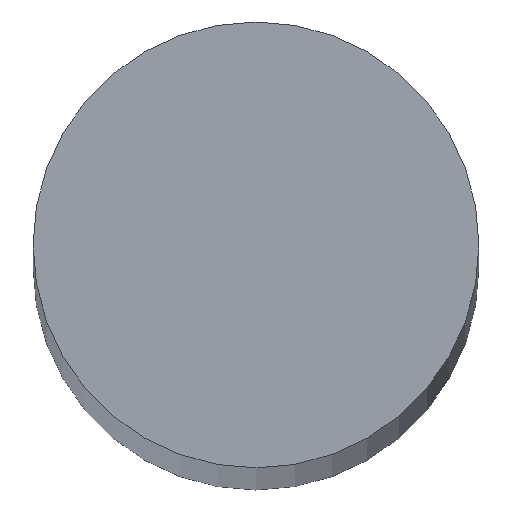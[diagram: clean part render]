
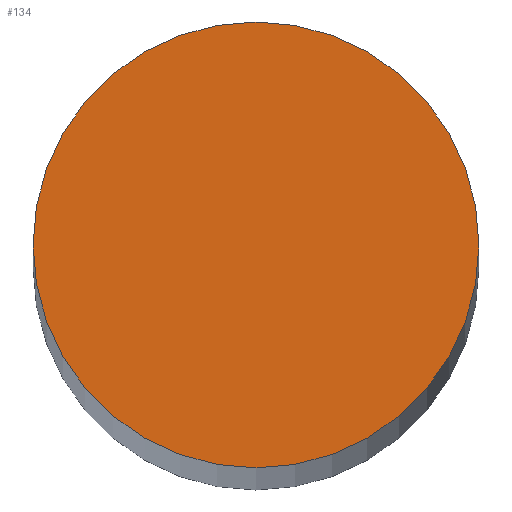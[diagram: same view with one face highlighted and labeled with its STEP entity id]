
A CAD part, top view. The second image highlights one B-rep face of the part: STEP entity #134.
In plain terms, the highlighted planar face has unit normal (0, 0, 1).
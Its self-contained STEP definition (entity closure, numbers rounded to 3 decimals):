
#3 = FACE_OUTER_BOUND ( 'NONE', #87, .T. ) ;
#5 = CIRCLE ( 'NONE', #124, 6. ) ;
#6 = CIRCLE ( 'NONE', #129, 6. ) ;
#18 = VERTEX_POINT ( 'NONE', #19 ) ;
#19 = CARTESIAN_POINT ( 'NONE',  ( 6., 0., 170.5 ) ) ;
#21 = CARTESIAN_POINT ( 'NONE',  ( -6., 0., 170.5 ) ) ;
#24 = VERTEX_POINT ( 'NONE', #21 ) ;
#39 = CARTESIAN_POINT ( 'NONE',  ( 0., 0., 170.5 ) ) ;
#40 = DIRECTION ( 'NONE',  ( 0., 0., 1. ) ) ;
#41 = DIRECTION ( 'NONE',  ( 1., 0., 0. ) ) ;
#42 = CARTESIAN_POINT ( 'NONE',  ( 0., 0., 170.5 ) ) ;
#44 = DIRECTION ( 'NONE',  ( 0., 0., 1. ) ) ;
#45 = DIRECTION ( 'NONE',  ( 1., 0., 0. ) ) ;
#54 = CARTESIAN_POINT ( 'NONE',  ( 0., 0., 170.5 ) ) ;
#55 = PLANE ( 'NONE',  #122 ) ;
#57 = DIRECTION ( 'NONE',  ( 0., 0., 1. ) ) ;
#58 = DIRECTION ( 'NONE',  ( 1., 0., 0. ) ) ;
#87 = EDGE_LOOP ( 'NONE', ( #95, #97 ) ) ;
#95 = ORIENTED_EDGE ( 'NONE', *, *, #125, .T. ) ;
#97 = ORIENTED_EDGE ( 'NONE', *, *, #127, .T. ) ;
#122 = AXIS2_PLACEMENT_3D ( 'NONE', #54, #57, #58 ) ;
#124 = AXIS2_PLACEMENT_3D ( 'NONE', #42, #44, #45 ) ;
#125 = EDGE_CURVE ( 'NONE', #24, #18, #6, .T. ) ;
#127 = EDGE_CURVE ( 'NONE', #18, #24, #5, .T. ) ;
#129 = AXIS2_PLACEMENT_3D ( 'NONE', #39, #40, #41 ) ;
#134 = ADVANCED_FACE ( 'NONE', ( #3 ), #55, .T. ) ;
